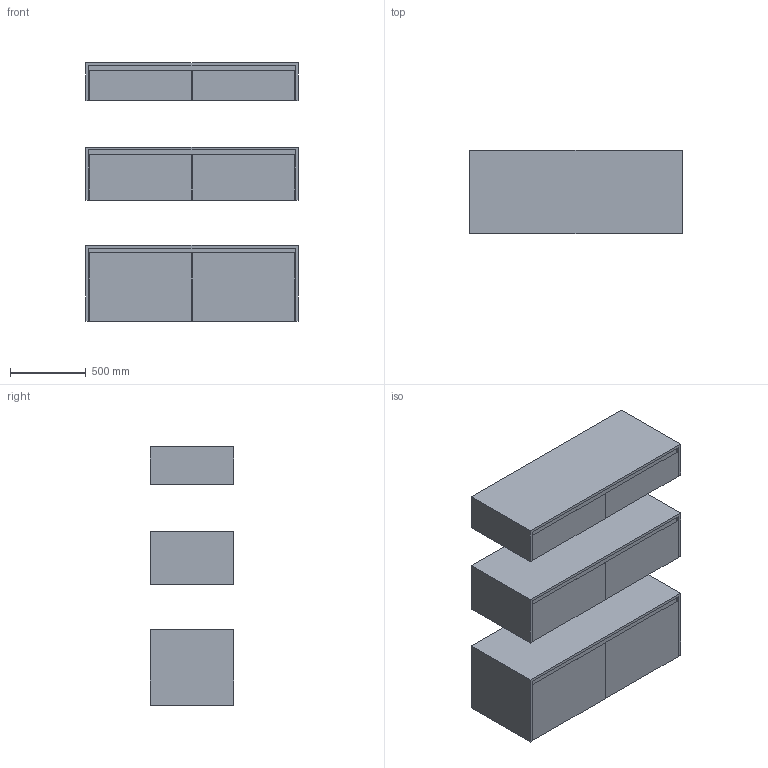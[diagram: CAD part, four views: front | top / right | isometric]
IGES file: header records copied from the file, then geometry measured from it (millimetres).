
Global section: file name: \\Archi-NAS\Comune\X GIOVANNI\MOBILI\SLIMLINE\SLIMLINE_02.igs; native system: Rhinoceros ( Feb 23 2021 ); preprocessor: Trout Lake IGES 012 Feb 23 2021; date: 230607.143735; units: millimetre
Bounding box: 1400 x 550 x 1703.17 mm (x, y, z)
Surface area: 25294441.9 mm2 (no closed solid volume)
Topology: 0 solids, 0 shells, 288 faces, 1216 edges, 1216 vertices
Faces by surface type: bspline 288
